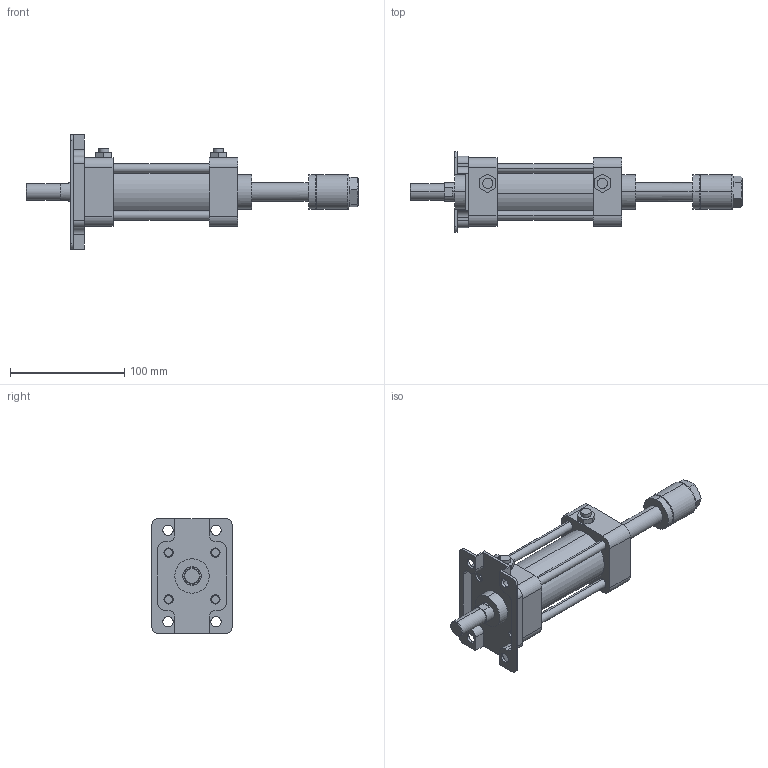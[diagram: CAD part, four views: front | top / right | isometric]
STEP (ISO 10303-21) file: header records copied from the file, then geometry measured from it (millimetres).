
FILE_DESCRIPTION (( 'STEP AP203' ), '1' );
FILE_NAME ('KGA7-40#-50-A.STEP', '2016-04-14T07:47:31', ( '' ), ( '' ), 'SwSTEP 2.0', 'SolidWorks 2014', '' );
FILE_SCHEMA (( 'CONFIG_CONTROL_DESIGN' ));
Length unit declared in the file: millimetre
Products named in the file (9): KGLH2-40-50; K#7-40-50-After; KGA7-40#-50-A; K-40-AB; KGA7-40-Turn
Assembly tree (18 placements, depth 2):
  KGA7-40#-50-A
    K#7-40-50-After
    KGLH2-40-50
    (unnamed)
    (unnamed)  x4
    (unnamed)  x8
    K-40-AB
    KGA7-40-Turn
    (unnamed)
Bounding box: 290 x 70 x 100 mm (x, y, z)
Volume: 363555.1 mm3; surface area: 114880 mm2
Topology: 18 solids, 23 shells, 449 faces, 1067 edges, 683 vertices
Faces by surface type: plane 191, cylinder 184, torus 46, cone 28
Entity records: 12332 total; most frequent: CARTESIAN_POINT 2409, DIRECTION 1897, ORIENTED_EDGE 1754, EDGE_CURVE 877, AXIS2_PLACEMENT_3D 714, VERTEX_POINT 573, VECTOR 469, LINE 469
